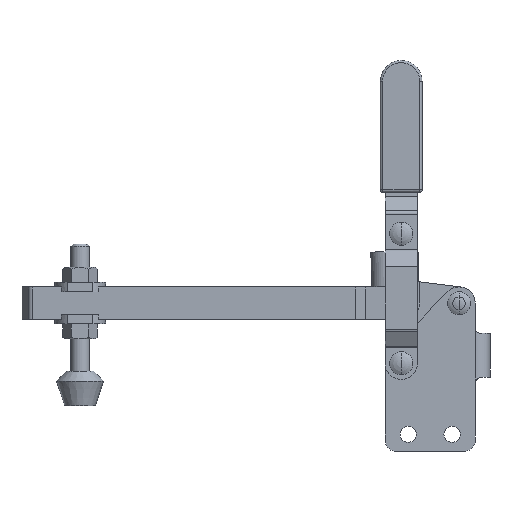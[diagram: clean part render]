
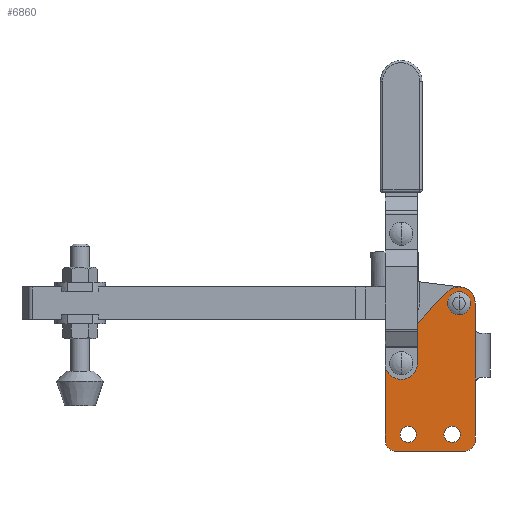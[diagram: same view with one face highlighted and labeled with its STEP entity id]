
A CAD part, front view. The second image highlights one B-rep face of the part: STEP entity #6860.
In plain terms, the highlighted planar face has unit normal (0, -1, 0).
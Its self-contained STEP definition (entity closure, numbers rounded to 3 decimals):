
#6687=CARTESIAN_POINT('Axis2P3D Location',(170.873,-6.4,-19.789)) ;
#6692=CARTESIAN_POINT('Line Origine',(170.873,-6.4,-2.689)) ;
#6696=CARTESIAN_POINT('Cartesian Point',(170.873,-6.4,-14.789)) ;
#6698=CARTESIAN_POINT('Cartesian Point',(170.873,-6.4,9.411)) ;
#6702=CARTESIAN_POINT('Control Point',(170.873,-6.4,33.183)) ;
#6703=CARTESIAN_POINT('Control Point',(170.873,-6.4,9.411)) ;
#6704=CARTESIAN_POINT('Cartesian Point',(170.887,-6.4,33.183)) ;
#6708=CARTESIAN_POINT('Control Point',(170.873,-6.4,33.411)) ;
#6709=CARTESIAN_POINT('Control Point',(170.873,-6.4,33.183)) ;
#6710=CARTESIAN_POINT('Cartesian Point',(170.873,-6.4,33.411)) ;
#6713=CARTESIAN_POINT('Line Origine',(170.873,-6.4,38.911)) ;
#6717=CARTESIAN_POINT('Cartesian Point',(170.873,-6.4,44.411)) ;
#6720=CARTESIAN_POINT('Axis2P3D Location',(163.873,-6.4,44.411)) ;
#6724=CARTESIAN_POINT('Cartesian Point',(163.905,-6.4,51.411)) ;
#6727=CARTESIAN_POINT('Axis2P3D Location',(163.873,-6.4,44.411)) ;
#6731=CARTESIAN_POINT('Cartesian Point',(158.828,-6.4,49.263)) ;
#6734=CARTESIAN_POINT('Line Origine',(146.328,-6.4,36.263)) ;
#6738=CARTESIAN_POINT('Cartesian Point',(133.828,-6.4,23.263)) ;
#6741=CARTESIAN_POINT('Axis2P3D Location',(138.873,-6.4,18.411)) ;
#6745=CARTESIAN_POINT('Cartesian Point',(131.873,-6.4,18.411)) ;
#6748=CARTESIAN_POINT('Line Origine',(131.873,-6.4,1.811)) ;
#6752=CARTESIAN_POINT('Cartesian Point',(131.873,-6.4,-14.789)) ;
#6755=CARTESIAN_POINT('Axis2P3D Location',(136.873,-6.4,-14.789)) ;
#6759=CARTESIAN_POINT('Cartesian Point',(136.873,-6.4,-19.789)) ;
#6762=CARTESIAN_POINT('Line Origine',(151.373,-6.4,-19.789)) ;
#6766=CARTESIAN_POINT('Cartesian Point',(165.873,-6.4,-19.789)) ;
#6769=CARTESIAN_POINT('Axis2P3D Location',(165.873,-6.4,-14.789)) ;
#6788=CARTESIAN_POINT('Axis2P3D Location',(160.873,-6.4,-12.289)) ;
#6792=CARTESIAN_POINT('Cartesian Point',(160.873,-6.4,-15.789)) ;
#6794=CARTESIAN_POINT('Cartesian Point',(160.873,-6.4,-8.789)) ;
#6797=CARTESIAN_POINT('Axis2P3D Location',(160.873,-6.4,-12.289)) ;
#6806=CARTESIAN_POINT('Axis2P3D Location',(141.873,-6.4,-12.289)) ;
#6810=CARTESIAN_POINT('Cartesian Point',(141.873,-6.4,-15.789)) ;
#6812=CARTESIAN_POINT('Cartesian Point',(141.873,-6.4,-8.789)) ;
#6815=CARTESIAN_POINT('Axis2P3D Location',(141.873,-6.4,-12.289)) ;
#6824=CARTESIAN_POINT('Axis2P3D Location',(163.873,-6.4,44.411)) ;
#6828=CARTESIAN_POINT('Cartesian Point',(163.873,-6.4,41.211)) ;
#6830=CARTESIAN_POINT('Cartesian Point',(163.873,-6.4,47.611)) ;
#6833=CARTESIAN_POINT('Axis2P3D Location',(163.873,-6.4,44.411)) ;
#6842=CARTESIAN_POINT('Axis2P3D Location',(138.873,-6.4,18.411)) ;
#6846=CARTESIAN_POINT('Cartesian Point',(138.873,-6.4,15.211)) ;
#6848=CARTESIAN_POINT('Cartesian Point',(138.873,-6.4,21.611)) ;
#6851=CARTESIAN_POINT('Axis2P3D Location',(138.873,-6.4,18.411)) ;
#6688=DIRECTION('Axis2P3D Direction',(0.,1.,0.)) ;
#6689=DIRECTION('Axis2P3D XDirection',(0.,0.,-1.)) ;
#6693=DIRECTION('Vector Direction',(0.,0.,1.)) ;
#6714=DIRECTION('Vector Direction',(0.,0.,1.)) ;
#6721=DIRECTION('Axis2P3D Direction',(0.,1.,0.)) ;
#6728=DIRECTION('Axis2P3D Direction',(0.,1.,0.)) ;
#6735=DIRECTION('Vector Direction',(-0.693,0.,-0.721)) ;
#6742=DIRECTION('Axis2P3D Direction',(0.,1.,0.)) ;
#6749=DIRECTION('Vector Direction',(0.,0.,1.)) ;
#6756=DIRECTION('Axis2P3D Direction',(0.,1.,0.)) ;
#6763=DIRECTION('Vector Direction',(1.,0.,0.)) ;
#6770=DIRECTION('Axis2P3D Direction',(0.,1.,0.)) ;
#6789=DIRECTION('Axis2P3D Direction',(0.,1.,0.)) ;
#6798=DIRECTION('Axis2P3D Direction',(0.,1.,0.)) ;
#6807=DIRECTION('Axis2P3D Direction',(0.,1.,0.)) ;
#6816=DIRECTION('Axis2P3D Direction',(0.,1.,0.)) ;
#6825=DIRECTION('Axis2P3D Direction',(0.,1.,0.)) ;
#6834=DIRECTION('Axis2P3D Direction',(0.,1.,0.)) ;
#6843=DIRECTION('Axis2P3D Direction',(0.,1.,0.)) ;
#6852=DIRECTION('Axis2P3D Direction',(0.,1.,0.)) ;
#6690=AXIS2_PLACEMENT_3D('Plane Axis2P3D',#6687,#6688,#6689) ;
#6722=AXIS2_PLACEMENT_3D('Circle Axis2P3D',#6720,#6721,$) ;
#6729=AXIS2_PLACEMENT_3D('Circle Axis2P3D',#6727,#6728,$) ;
#6743=AXIS2_PLACEMENT_3D('Circle Axis2P3D',#6741,#6742,$) ;
#6757=AXIS2_PLACEMENT_3D('Circle Axis2P3D',#6755,#6756,$) ;
#6771=AXIS2_PLACEMENT_3D('Circle Axis2P3D',#6769,#6770,$) ;
#6790=AXIS2_PLACEMENT_3D('Circle Axis2P3D',#6788,#6789,$) ;
#6799=AXIS2_PLACEMENT_3D('Circle Axis2P3D',#6797,#6798,$) ;
#6808=AXIS2_PLACEMENT_3D('Circle Axis2P3D',#6806,#6807,$) ;
#6817=AXIS2_PLACEMENT_3D('Circle Axis2P3D',#6815,#6816,$) ;
#6826=AXIS2_PLACEMENT_3D('Circle Axis2P3D',#6824,#6825,$) ;
#6835=AXIS2_PLACEMENT_3D('Circle Axis2P3D',#6833,#6834,$) ;
#6844=AXIS2_PLACEMENT_3D('Circle Axis2P3D',#6842,#6843,$) ;
#6853=AXIS2_PLACEMENT_3D('Circle Axis2P3D',#6851,#6852,$) ;
#6775=ORIENTED_EDGE('Oriented Edge',*,*,#6700,.T.) ;
#6776=ORIENTED_EDGE('Oriented Edge',*,*,#6706,.F.) ;
#6777=ORIENTED_EDGE('Oriented Edge',*,*,#6712,.F.) ;
#6778=ORIENTED_EDGE('Oriented Edge',*,*,#6719,.T.) ;
#6779=ORIENTED_EDGE('Oriented Edge',*,*,#6726,.T.) ;
#6780=ORIENTED_EDGE('Oriented Edge',*,*,#6733,.T.) ;
#6781=ORIENTED_EDGE('Oriented Edge',*,*,#6740,.T.) ;
#6782=ORIENTED_EDGE('Oriented Edge',*,*,#6747,.T.) ;
#6783=ORIENTED_EDGE('Oriented Edge',*,*,#6754,.F.) ;
#6784=ORIENTED_EDGE('Oriented Edge',*,*,#6761,.T.) ;
#6785=ORIENTED_EDGE('Oriented Edge',*,*,#6768,.T.) ;
#6786=ORIENTED_EDGE('Oriented Edge',*,*,#6773,.T.) ;
#6803=ORIENTED_EDGE('Oriented Edge',*,*,#6796,.T.) ;
#6804=ORIENTED_EDGE('Oriented Edge',*,*,#6801,.T.) ;
#6821=ORIENTED_EDGE('Oriented Edge',*,*,#6814,.T.) ;
#6822=ORIENTED_EDGE('Oriented Edge',*,*,#6819,.T.) ;
#6839=ORIENTED_EDGE('Oriented Edge',*,*,#6832,.T.) ;
#6840=ORIENTED_EDGE('Oriented Edge',*,*,#6837,.T.) ;
#6857=ORIENTED_EDGE('Oriented Edge',*,*,#6850,.T.) ;
#6858=ORIENTED_EDGE('Oriented Edge',*,*,#6855,.T.) ;
#6805=FACE_BOUND('Face Bound',#6802,.T.) ;
#6823=FACE_BOUND('Face Bound',#6820,.T.) ;
#6841=FACE_BOUND('Face Bound',#6838,.T.) ;
#6859=FACE_BOUND('Face Bound',#6856,.T.) ;
#6694=VECTOR('Line Direction',#6693,1.) ;
#6715=VECTOR('Line Direction',#6714,1.) ;
#6736=VECTOR('Line Direction',#6735,1.) ;
#6750=VECTOR('Line Direction',#6749,1.) ;
#6764=VECTOR('Line Direction',#6763,1.) ;
#6860=ADVANCED_FACE('',(#6787,#6805,#6823,#6841,#6859),#6691,.F.) ;
#6701=B_SPLINE_CURVE_WITH_KNOTS('BSpline Curve',1,(#6702,#6703),.UNSPECIFIED.,.F.,.U.,(2,2),(0.,23.772),.UNSPECIFIED.) ;
#6707=B_SPLINE_CURVE_WITH_KNOTS('BSpline Curve',1,(#6708,#6709),.UNSPECIFIED.,.F.,.U.,(2,2),(0.,0.228),.UNSPECIFIED.) ;
#6723=CIRCLE('generated circle',#6722,7.) ;
#6730=CIRCLE('generated circle',#6729,7.) ;
#6744=CIRCLE('generated circle',#6743,7.) ;
#6758=CIRCLE('generated circle',#6757,5.) ;
#6772=CIRCLE('generated circle',#6771,5.) ;
#6791=CIRCLE('generated circle',#6790,3.5) ;
#6800=CIRCLE('generated circle',#6799,3.5) ;
#6809=CIRCLE('generated circle',#6808,3.5) ;
#6818=CIRCLE('generated circle',#6817,3.5) ;
#6827=CIRCLE('generated circle',#6826,3.2) ;
#6836=CIRCLE('generated circle',#6835,3.2) ;
#6845=CIRCLE('generated circle',#6844,3.2) ;
#6854=CIRCLE('generated circle',#6853,3.2) ;
#6700=EDGE_CURVE('',#6697,#6699,#6695,.T.) ;
#6706=EDGE_CURVE('',#6705,#6699,#6701,.T.) ;
#6712=EDGE_CURVE('',#6711,#6705,#6707,.T.) ;
#6719=EDGE_CURVE('',#6711,#6718,#6716,.T.) ;
#6726=EDGE_CURVE('',#6718,#6725,#6723,.F.) ;
#6733=EDGE_CURVE('',#6725,#6732,#6730,.F.) ;
#6740=EDGE_CURVE('',#6732,#6739,#6737,.T.) ;
#6747=EDGE_CURVE('',#6739,#6746,#6744,.F.) ;
#6754=EDGE_CURVE('',#6753,#6746,#6751,.T.) ;
#6761=EDGE_CURVE('',#6753,#6760,#6758,.F.) ;
#6768=EDGE_CURVE('',#6760,#6767,#6765,.T.) ;
#6773=EDGE_CURVE('',#6767,#6697,#6772,.F.) ;
#6796=EDGE_CURVE('',#6793,#6795,#6791,.T.) ;
#6801=EDGE_CURVE('',#6795,#6793,#6800,.T.) ;
#6814=EDGE_CURVE('',#6811,#6813,#6809,.T.) ;
#6819=EDGE_CURVE('',#6813,#6811,#6818,.T.) ;
#6832=EDGE_CURVE('',#6829,#6831,#6827,.T.) ;
#6837=EDGE_CURVE('',#6831,#6829,#6836,.T.) ;
#6850=EDGE_CURVE('',#6847,#6849,#6845,.T.) ;
#6855=EDGE_CURVE('',#6849,#6847,#6854,.T.) ;
#6774=EDGE_LOOP('Oriented Loop',(#6775,#6776,#6777,#6778,#6779,#6780,#6781,#6782,#6783,#6784,#6785,#6786)) ;
#6802=EDGE_LOOP('Oriented Loop',(#6803,#6804)) ;
#6820=EDGE_LOOP('Oriented Loop',(#6821,#6822)) ;
#6838=EDGE_LOOP('Oriented Loop',(#6839,#6840)) ;
#6856=EDGE_LOOP('Oriented Loop',(#6857,#6858)) ;
#6787=FACE_OUTER_BOUND('Face Bound',#6774,.T.) ;
#6695=LINE('Line',#6692,#6694) ;
#6716=LINE('Line',#6713,#6715) ;
#6737=LINE('Line',#6734,#6736) ;
#6751=LINE('Line',#6748,#6750) ;
#6765=LINE('Line',#6762,#6764) ;
#6691=PLANE('Plane',#6690) ;
#6697=VERTEX_POINT('Vertex Point',#6696) ;
#6699=VERTEX_POINT('Vertex Point',#6698) ;
#6705=VERTEX_POINT('Vertex Point',#6704) ;
#6711=VERTEX_POINT('Vertex Point',#6710) ;
#6718=VERTEX_POINT('Vertex Point',#6717) ;
#6725=VERTEX_POINT('Vertex Point',#6724) ;
#6732=VERTEX_POINT('Vertex Point',#6731) ;
#6739=VERTEX_POINT('Vertex Point',#6738) ;
#6746=VERTEX_POINT('Vertex Point',#6745) ;
#6753=VERTEX_POINT('Vertex Point',#6752) ;
#6760=VERTEX_POINT('Vertex Point',#6759) ;
#6767=VERTEX_POINT('Vertex Point',#6766) ;
#6793=VERTEX_POINT('Vertex Point',#6792) ;
#6795=VERTEX_POINT('Vertex Point',#6794) ;
#6811=VERTEX_POINT('Vertex Point',#6810) ;
#6813=VERTEX_POINT('Vertex Point',#6812) ;
#6829=VERTEX_POINT('Vertex Point',#6828) ;
#6831=VERTEX_POINT('Vertex Point',#6830) ;
#6847=VERTEX_POINT('Vertex Point',#6846) ;
#6849=VERTEX_POINT('Vertex Point',#6848) ;
